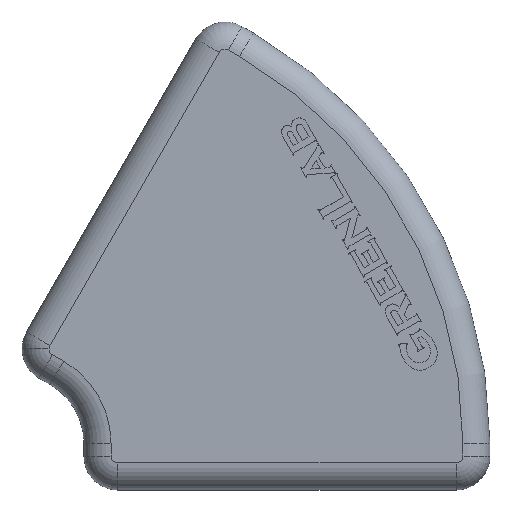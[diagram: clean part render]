
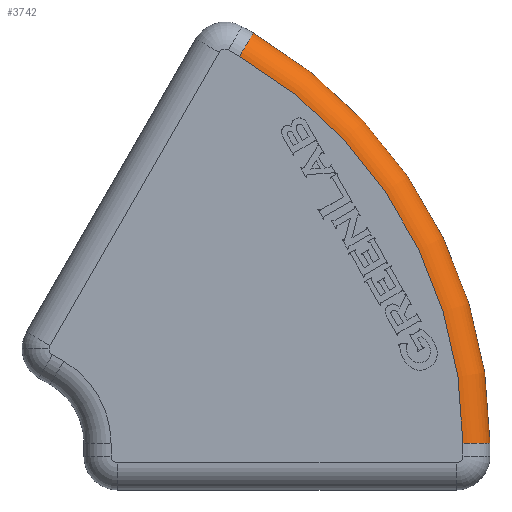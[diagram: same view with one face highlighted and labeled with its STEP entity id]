
A CAD part, top view. The second image highlights one B-rep face of the part: STEP entity #3742.
In plain terms, the highlighted toroidal (fillet/blend) face has major radius 33 mm and minor radius 2 mm.
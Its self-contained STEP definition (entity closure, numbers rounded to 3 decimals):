
#348 = EDGE_CURVE ( 'NONE', #4261, #5161, #7052, .T. ) ;
#426 = ORIENTED_EDGE ( 'NONE', *, *, #1696, .F. ) ;
#568 = CIRCLE ( 'NONE', #10151, 2. ) ;
#1412 = DIRECTION ( 'NONE',  ( 0., 0., 1. ) ) ;
#1696 = EDGE_CURVE ( 'NONE', #7790, #5190, #568, .T. ) ;
#1901 = CARTESIAN_POINT ( 'NONE',  ( 13., -11.547, 1. ) ) ;
#2505 = DIRECTION ( 'NONE',  ( 0., 0., -1. ) ) ;
#2690 = EDGE_LOOP ( 'NONE', ( #4668, #3223, #426, #7190 ) ) ;
#2993 = AXIS2_PLACEMENT_3D ( 'NONE', #8688, #8529, #3805 ) ;
#3099 = DIRECTION ( 'NONE',  ( 1., 0., 0. ) ) ;
#3223 = ORIENTED_EDGE ( 'NONE', *, *, #10060, .F. ) ;
#3469 = AXIS2_PLACEMENT_3D ( 'NONE', #1901, #9042, #2505 ) ;
#3640 = CARTESIAN_POINT ( 'NONE',  ( -3.5, 17.032, 3. ) ) ;
#3742 = ADVANCED_FACE ( 'NONE', ( #8683 ), #4538, .T. ) ;
#3805 = DIRECTION ( 'NONE',  ( 1., 0., 0. ) ) ;
#4261 = VERTEX_POINT ( 'NONE', #8814 ) ;
#4326 = EDGE_CURVE ( 'NONE', #5161, #7790, #7084, .T. ) ;
#4538 = TOROIDAL_SURFACE ( 'NONE', #10168, 33., 2. ) ;
#4668 = ORIENTED_EDGE ( 'NONE', *, *, #348, .F. ) ;
#4680 = DIRECTION ( 'NONE',  ( 1., 0., 0. ) ) ;
#4797 = CARTESIAN_POINT ( 'NONE',  ( -2.5, 18.764, 1. ) ) ;
#5161 = VERTEX_POINT ( 'NONE', #8714 ) ;
#5190 = VERTEX_POINT ( 'NONE', #4797 ) ;
#5219 = CIRCLE ( 'NONE', #2993, 35. ) ;
#7052 = CIRCLE ( 'NONE', #3469, 2. ) ;
#7084 = CIRCLE ( 'NONE', #8810, 33. ) ;
#7163 = CARTESIAN_POINT ( 'NONE',  ( -20., -11.547, 1. ) ) ;
#7190 = ORIENTED_EDGE ( 'NONE', *, *, #4326, .F. ) ;
#7215 = DIRECTION ( 'NONE',  ( -0.5, -0.866, 0. ) ) ;
#7790 = VERTEX_POINT ( 'NONE', #3640 ) ;
#8529 = DIRECTION ( 'NONE',  ( 0., 0., -1. ) ) ;
#8683 = FACE_OUTER_BOUND ( 'NONE', #2690, .T. ) ;
#8688 = CARTESIAN_POINT ( 'NONE',  ( -20., -11.547, 1. ) ) ;
#8714 = CARTESIAN_POINT ( 'NONE',  ( 13., -11.547, 3. ) ) ;
#8736 = DIRECTION ( 'NONE',  ( -0.866, 0.5, 0. ) ) ;
#8758 = CARTESIAN_POINT ( 'NONE',  ( -20., -11.547, 3. ) ) ;
#8810 = AXIS2_PLACEMENT_3D ( 'NONE', #8758, #1412, #4680 ) ;
#8814 = CARTESIAN_POINT ( 'NONE',  ( 15., -11.547, 1. ) ) ;
#9042 = DIRECTION ( 'NONE',  ( 0., -1., 0. ) ) ;
#10060 = EDGE_CURVE ( 'NONE', #5190, #4261, #5219, .T. ) ;
#10151 = AXIS2_PLACEMENT_3D ( 'NONE', #10434, #8736, #7215 ) ;
#10168 = AXIS2_PLACEMENT_3D ( 'NONE', #7163, #10432, #3099 ) ;
#10432 = DIRECTION ( 'NONE',  ( 0., 0., 1. ) ) ;
#10434 = CARTESIAN_POINT ( 'NONE',  ( -3.5, 17.032, 1. ) ) ;
